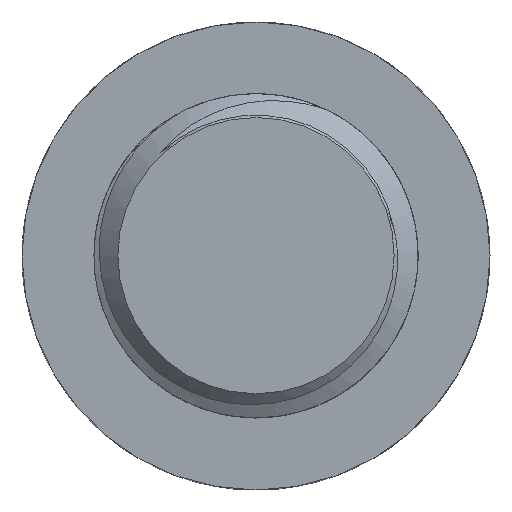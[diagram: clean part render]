
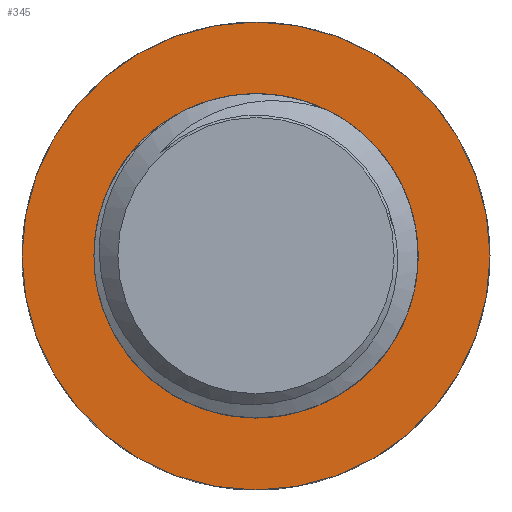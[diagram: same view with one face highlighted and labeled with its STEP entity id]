
A CAD part, top view. The second image highlights one B-rep face of the part: STEP entity #345.
In plain terms, the highlighted planar face has unit normal (0, 0, 1).
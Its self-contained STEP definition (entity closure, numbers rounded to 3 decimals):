
#22=FACE_BOUND('',#63,.T.);
#28=PLANE('',#389);
#42=FACE_OUTER_BOUND('',#62,.T.);
#62=EDGE_LOOP('',(#266));
#63=EDGE_LOOP('',(#267));
#74=CIRCLE('',#372,6.761);
#82=CIRCLE('',#390,9.761);
#144=VERTEX_POINT('',#532);
#165=VERTEX_POINT('',#791);
#178=EDGE_CURVE('',#144,#144,#74,.F.);
#207=EDGE_CURVE('',#165,#165,#82,.T.);
#266=ORIENTED_EDGE('',*,*,#207,.F.);
#267=ORIENTED_EDGE('',*,*,#178,.T.);
#345=ADVANCED_FACE('',(#42,#22),#28,.F.);
#372=AXIS2_PLACEMENT_3D('',#534,#413,#414);
#389=AXIS2_PLACEMENT_3D('',#790,#459,#460);
#390=AXIS2_PLACEMENT_3D('',#792,#461,#462);
#413=DIRECTION('center_axis',(0.,0.,1.));
#414=DIRECTION('ref_axis',(1.,0.,0.));
#459=DIRECTION('center_axis',(0.,0.,-1.));
#460=DIRECTION('ref_axis',(1.,0.,0.));
#461=DIRECTION('center_axis',(0.,0.,-1.));
#462=DIRECTION('ref_axis',(1.,0.,0.));
#532=CARTESIAN_POINT('',(-6.761,0.,0.));
#534=CARTESIAN_POINT('Origin',(0.,0.,0.));
#790=CARTESIAN_POINT('Origin',(0.,0.,0.));
#791=CARTESIAN_POINT('',(-9.761,0.,0.));
#792=CARTESIAN_POINT('Origin',(0.,0.,0.));
